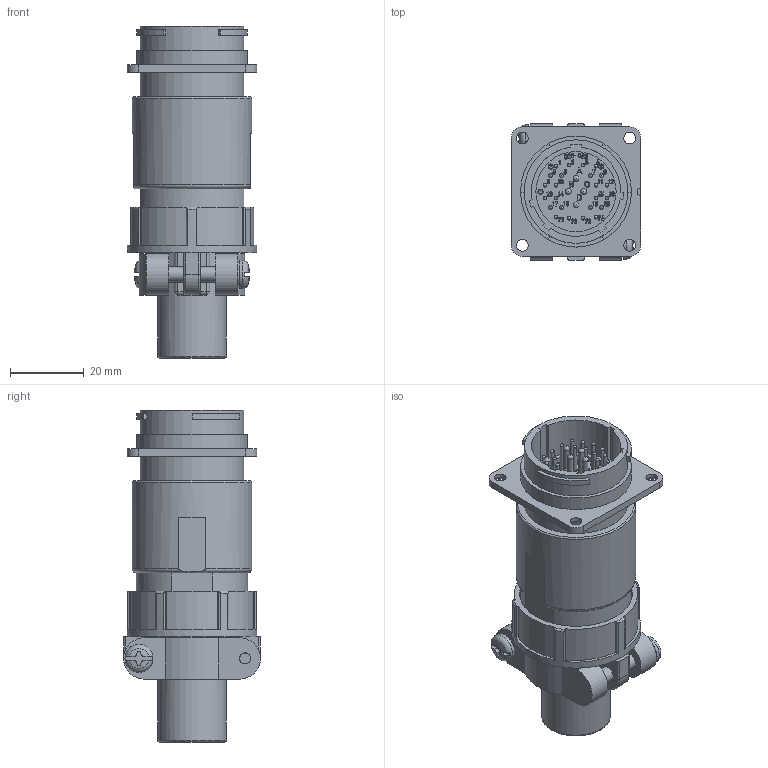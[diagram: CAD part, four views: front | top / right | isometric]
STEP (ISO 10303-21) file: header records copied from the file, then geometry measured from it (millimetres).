
FILE_DESCRIPTION (( 'STEP AP203' ), '1' );
FILE_NAME ('WEBWR2528M-7-D(R1).STEP', '2021-08-10T02:41:16', ( '' ), ( '' ), 'SwSTEP 2.0', 'SolidWorks 2018', '' );
FILE_SCHEMA (( 'CONFIG_CONTROL_DESIGN' ));
Products named in the file (1): WEBWR2528M-7-D(R1)
Bounding box: 35 x 37 x 89.8 mm (x, y, z)
Volume: 34387.1 mm3; surface area: 24202.5 mm2
Topology: 1 solids, 1 shells, 2433 faces, 6723 edges, 4459 vertices
Faces by surface type: bspline 1069, plane 1022, cylinder 248, cone 40, sphere 36, torus 18
Full cylindrical faces by diameter (mm): 1 x24, 1.1 x24, 1.2 x3, 1.4 x4, 1.55 x24, 1.6 x9, 1.7 x4, 2.4 x4, 2.6 x4, 2.8 x2, 3 x2, 3.2 x4, 4.1 x2, 4.3 x4, 7.6 x2, 17 x2, 17.8 x1, 18.64 x1, 19 x1, 21.3 x1, 21.7 x1, 23.2 x1, 23.6 x1, 27.96 x1, 28 x1, 30 x1, 30.5 x1, 32.3 x1, 35 x1
Entity records: 109189 total; most frequent: CARTESIAN_POINT 56073, ORIENTED_EDGE 12688, DIRECTION 7348, EDGE_CURVE 6344, VERTEX_POINT 4292, VECTOR 3582, LINE 3582, EDGE_LOOP 2844
